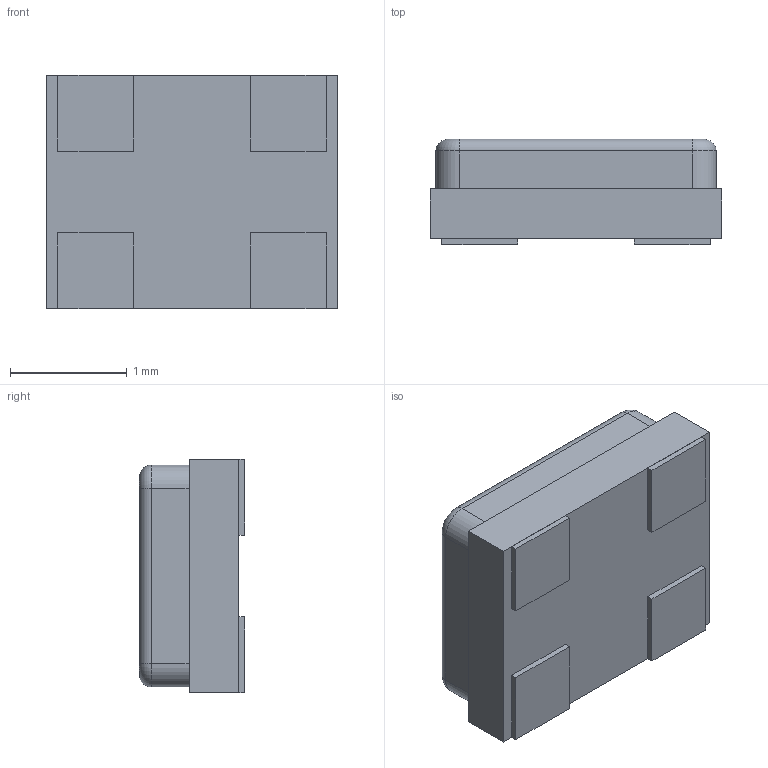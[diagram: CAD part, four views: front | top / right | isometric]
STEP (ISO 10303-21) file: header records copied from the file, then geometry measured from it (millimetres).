
FILE_DESCRIPTION (( 'STEP AP214' ), '1' );
FILE_NAME ( 'OSCDFN4_250X200X90L65X65.STEP', '2021-10-06T06:49:14', ( '' ), ( '' ), '', '©2017 PCB Libraries, Inc.', '' );
FILE_SCHEMA (( 'AUTOMOTIVE_DESIGN' ));
Length unit declared in the file: millimetre
Products named in the file (1): OSCDFN4_250X200X90L65X65
Bounding box: 2.5 x 0.9 x 2 mm (x, y, z)
Volume: 4.1 mm3; surface area: 20.9 mm2
Topology: 5 solids, 5 shells, 50 faces, 106 edges, 68 vertices
Faces by surface type: plane 36, cylinder 8, torus 6
Entity records: 1560 total; most frequent: DIRECTION 234, CARTESIAN_POINT 225, ORIENTED_EDGE 212, EDGE_CURVE 106, VECTOR 80, LINE 80, AXIS2_PLACEMENT_3D 77, VERTEX_POINT 68
